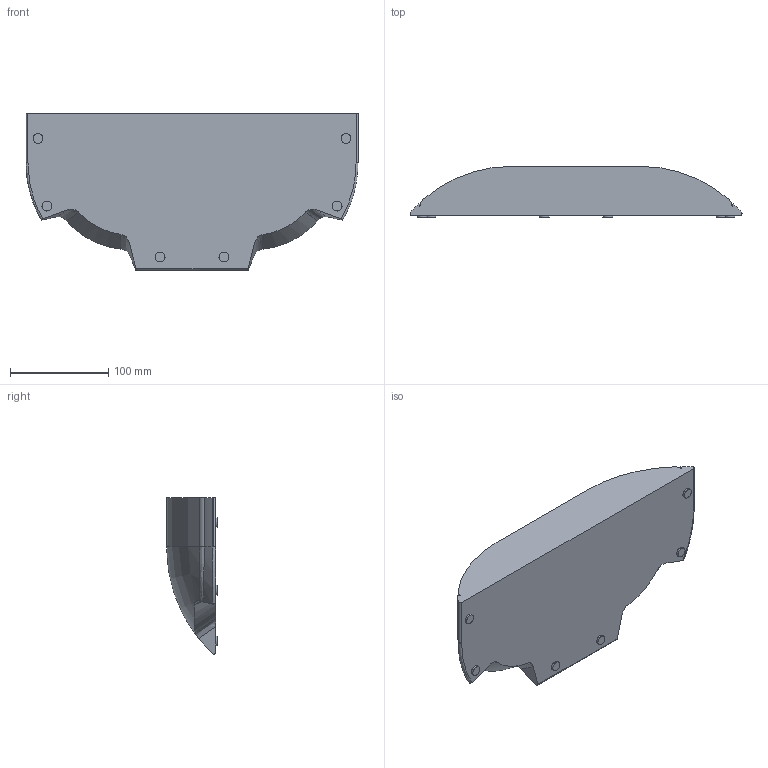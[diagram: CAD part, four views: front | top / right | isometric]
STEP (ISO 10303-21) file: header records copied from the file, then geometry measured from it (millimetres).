
FILE_DESCRIPTION(/* description */ ('Unknown'),/* implementation_level */ '2;1');
FILE_NAME(/* name */ '3D_Footsie_Endcap',/* time_stamp */ '2024-01-11T11:47:09+01:00',/* author */ ('Unknown'),/* organization */ ('Unknown'),/* preprocessor_version */ 'ST-DEVELOPER v18.104',/* originating_system */ 'Solid Edge',/* authorisation */ 'Unknown');
FILE_SCHEMA (('AUTOMOTIVE_DESIGN {1 0 10303 214 3 1 1}'));
Length unit declared in the file: millimetre
Products named in the file (1): 3D_Footsie_Endcap
Bounding box: 338.56 x 52 x 159.24 mm (x, y, z)
Volume: 1629003 mm3; surface area: 114048.6 mm2
Topology: 1 solids, 1 shells, 58 faces, 142 edges, 92 vertices
Faces by surface type: cylinder 21, bspline 20, plane 13, torus 4
Full cylindrical faces by diameter (mm): 10 x6
Entity records: 2588 total; most frequent: CARTESIAN_POINT 1378, ORIENTED_EDGE 272, DIRECTION 186, EDGE_CURVE 136, VERTEX_POINT 92, AXIS2_PLACEMENT_3D 77, EDGE_LOOP 70, FACE_BOUND 70
